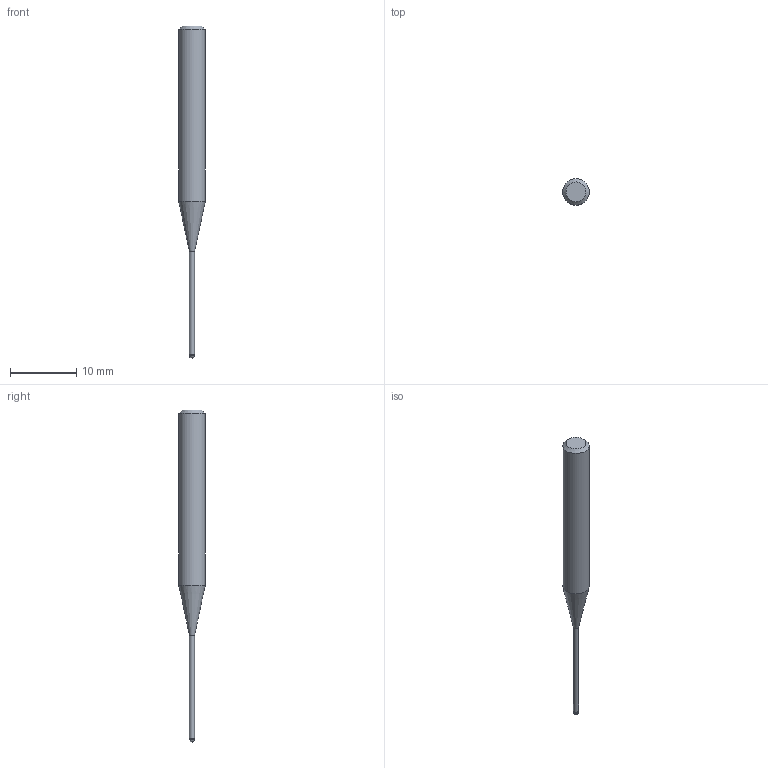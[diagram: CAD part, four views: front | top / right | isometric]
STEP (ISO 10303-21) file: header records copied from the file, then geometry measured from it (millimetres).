
FILE_DESCRIPTION((''),'2;1');
FILE_NAME('C:\Users\nsx150\AppData\Local\Temp\Mastercam 2021\ARV7HD45SN\TEMP.step','2023-06-13T16:35:02',(''),(''),'STEP Write','Mastercam 2021 ... CNC Software, Inc.','');
FILE_SCHEMA(('AUTOMOTIVE_DESIGN'));
Length unit declared in the file: millimetre
Products named in the file (1): None
Bounding box: 4 x 4 x 50 mm (x, y, z)
Volume: 376.4 mm3; surface area: 437.5 mm2
Topology: 2 solids, 2 shells, 9 faces, 14 edges, 8 vertices
Faces by surface type: plane 3, cylinder 3, cone 2, sphere 1
Full cylindrical faces by diameter (mm): 0.76 x1, 0.8 x1, 4 x1
Entity records: 211 total; most frequent: DIRECTION 36, CARTESIAN_POINT 25, AXIS2_PLACEMENT_3D 18, ORIENTED_EDGE 14, EDGE_LOOP 14, STYLED_ITEM 12, ADVANCED_FACE 9, FACE_BOUND 8
